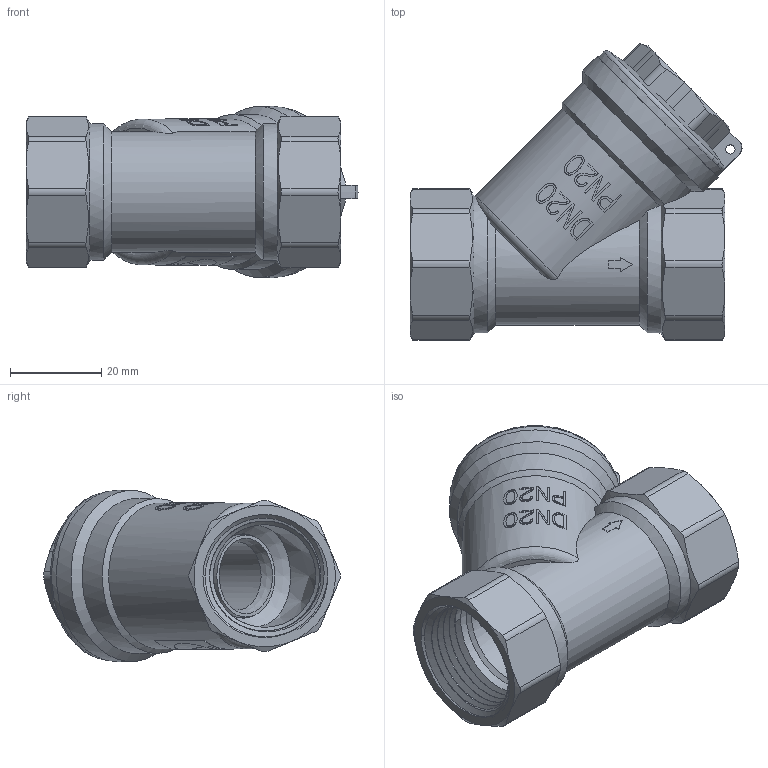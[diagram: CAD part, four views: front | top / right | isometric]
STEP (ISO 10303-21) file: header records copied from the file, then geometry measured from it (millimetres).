
FILE_DESCRIPTION(/* description */ (''),/* implementation_level */ '2;1');
FILE_NAME(/* name */ 'H:\Мишенин_3D\Для каталога DWG\Фильтры\VT.192.N.05.stp',/* time_stamp */ '2019-03-06T08:44:08+03:00',/* author */ ('MisheninAL'),/* organization */ (''),/* preprocessor_version */ 'ST-DEVELOPER v17',/* originating_system */ 'Autodesk Inventor 2019',/* authorisation */ '');
FILE_SCHEMA (('AUTOMOTIVE_DESIGN { 1 0 10303 214 3 1 1 }'));
Length unit declared in the file: millimetre
Products named in the file (1): VT.192.N.05
Bounding box: 72.74 x 65.02 x 37.5 mm (x, y, z)
Volume: 30964.2 mm3; surface area: 34390.3 mm2
Topology: 2 solids, 3 shells, 377 faces, 1082 edges, 735 vertices
Faces by surface type: plane 139, cylinder 108, bspline 90, cone 36, torus 4
Full cylindrical faces by diameter (mm): 2 x1, 15 x1, 17 x1, 18 x1, 18.5 x1, 19 x1, 21 x1, 21.5 x1, 22 x1, 22.5 x3, 23.5 x1, 23.52 x1, 24.1 x10, 24.32 x1, 24.5 x1, 27.7 x10, 29.5 x1, 30 x1, 31 x1, 31.5 x1, 35.5 x1, 37 x1, 37.5 x1
Entity records: 18010 total; most frequent: CARTESIAN_POINT 9012, ORIENTED_EDGE 2156, DIRECTION 1472, EDGE_CURVE 1078, VERTEX_POINT 733, AXIS2_PLACEMENT_3D 548, EDGE_LOOP 419, ADVANCED_FACE 377
